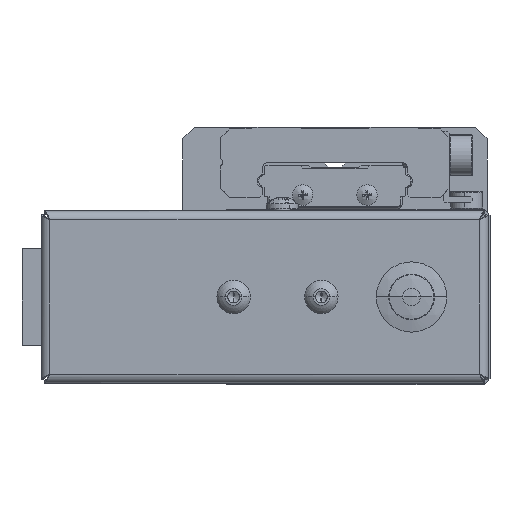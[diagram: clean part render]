
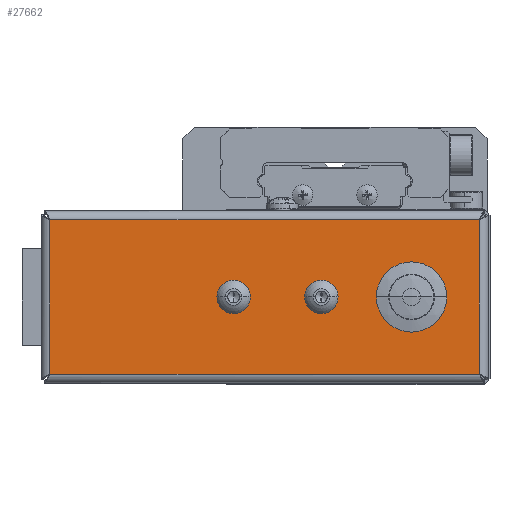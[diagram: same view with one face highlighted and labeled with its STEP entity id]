
A CAD part, left-side view. The second image highlights one B-rep face of the part: STEP entity #27662.
In plain terms, the highlighted planar face has unit normal (-1, 0, 0) as drawn and (0, 0, -1) by its records, which use the part's own axes.
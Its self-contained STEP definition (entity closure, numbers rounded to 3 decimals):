
#16 = EDGE_LOOP ( 'NONE', ( #35210, #17534, #27285, #9019 ) ) ;
#160 = CARTESIAN_POINT ( 'NONE',  ( 1.5, 0.571, -0.5 ) ) ;
#327 = EDGE_CURVE ( 'NONE', #11824, #25733, #27491, .T. ) ;
#944 = DIRECTION ( 'NONE',  ( -1., 0., 0. ) ) ;
#1338 = VECTOR ( 'NONE', #14428, 1000. ) ;
#1768 = CARTESIAN_POINT ( 'NONE',  ( 67.1, 14.7, -0.5 ) ) ;
#2064 = EDGE_CURVE ( 'NONE', #2959, #5705, #27173, .T. ) ;
#2805 = CARTESIAN_POINT ( 'NONE',  ( 59.5, 14.7, -0.5 ) ) ;
#2959 = VERTEX_POINT ( 'NONE', #2805 ) ;
#3415 = ORIENTED_EDGE ( 'NONE', *, *, #2064, .F. ) ;
#4232 = LINE ( 'NONE', #21245, #24502 ) ;
#5705 = VERTEX_POINT ( 'NONE', #1768 ) ;
#6226 = CARTESIAN_POINT ( 'NONE',  ( 63.3, 14.7, -0.5 ) ) ;
#6305 = PLANE ( 'NONE',  #33307 ) ;
#6701 = CARTESIAN_POINT ( 'NONE',  ( 74.9, 1.5, -0.5 ) ) ;
#8312 = CIRCLE ( 'NONE', #12024, 3.8 ) ;
#9019 = ORIENTED_EDGE ( 'NONE', *, *, #37873, .T. ) ;
#9071 = LINE ( 'NONE', #17307, #20139 ) ;
#9186 = DIRECTION ( 'NONE',  ( -1., 0., 0. ) ) ;
#10082 = CARTESIAN_POINT ( 'NONE',  ( 74.9, 27.9, -0.5 ) ) ;
#11382 = DIRECTION ( 'NONE',  ( 1., 0., 0. ) ) ;
#11777 = EDGE_CURVE ( 'NONE', #29416, #11824, #4232, .T. ) ;
#11824 = VERTEX_POINT ( 'NONE', #6701 ) ;
#12024 = AXIS2_PLACEMENT_3D ( 'NONE', #6226, #35592, #9186 ) ;
#13915 = CARTESIAN_POINT ( 'NONE',  ( 1.5, 1.5, -0.5 ) ) ;
#14107 = EDGE_CURVE ( 'NONE', #5705, #2959, #8312, .T. ) ;
#14428 = DIRECTION ( 'NONE',  ( -1., 0., 0. ) ) ;
#14548 = EDGE_CURVE ( 'NONE', #25733, #25703, #18429, .T. ) ;
#17307 = CARTESIAN_POINT ( 'NONE',  ( 0.571, 27.9, -0.5 ) ) ;
#17534 = ORIENTED_EDGE ( 'NONE', *, *, #327, .T. ) ;
#18429 = LINE ( 'NONE', #160, #37105 ) ;
#19801 = FACE_BOUND ( 'NONE', #25469, .T. ) ;
#20139 = VECTOR ( 'NONE', #11382, 1000. ) ;
#21245 = CARTESIAN_POINT ( 'NONE',  ( 74.9, 28.829, -0.5 ) ) ;
#22167 = CARTESIAN_POINT ( 'NONE',  ( 1.5, 27.9, -0.5 ) ) ;
#23322 = AXIS2_PLACEMENT_3D ( 'NONE', #29663, #36063, #944 ) ;
#24502 = VECTOR ( 'NONE', #26977, 1000. ) ;
#25469 = EDGE_LOOP ( 'NONE', ( #3415, #30367 ) ) ;
#25703 = VERTEX_POINT ( 'NONE', #22167 ) ;
#25733 = VERTEX_POINT ( 'NONE', #13915 ) ;
#26464 = DIRECTION ( 'NONE',  ( 0., 0., -1. ) ) ;
#26572 = DIRECTION ( 'NONE',  ( 0., 1., 0. ) ) ;
#26706 = DIRECTION ( 'NONE',  ( -1., 0., 0. ) ) ;
#26977 = DIRECTION ( 'NONE',  ( 0., -1., 0. ) ) ;
#27173 = CIRCLE ( 'NONE', #23322, 3.8 ) ;
#27285 = ORIENTED_EDGE ( 'NONE', *, *, #14548, .T. ) ;
#27491 = LINE ( 'NONE', #34788, #1338 ) ;
#27662 = ADVANCED_FACE ( 'NONE', ( #19801, #31222 ), #6305, .T. ) ;
#29416 = VERTEX_POINT ( 'NONE', #10082 ) ;
#29663 = CARTESIAN_POINT ( 'NONE',  ( 63.3, 14.7, -0.5 ) ) ;
#29776 = CARTESIAN_POINT ( 'NONE',  ( 0., 0., -0.5 ) ) ;
#30367 = ORIENTED_EDGE ( 'NONE', *, *, #14107, .F. ) ;
#31222 = FACE_OUTER_BOUND ( 'NONE', #16, .T. ) ;
#33307 = AXIS2_PLACEMENT_3D ( 'NONE', #29776, #26464, #26706 ) ;
#34788 = CARTESIAN_POINT ( 'NONE',  ( 75.829, 1.5, -0.5 ) ) ;
#35210 = ORIENTED_EDGE ( 'NONE', *, *, #11777, .T. ) ;
#35592 = DIRECTION ( 'NONE',  ( 0., 0., -1. ) ) ;
#36063 = DIRECTION ( 'NONE',  ( 0., 0., -1. ) ) ;
#37105 = VECTOR ( 'NONE', #26572, 1000. ) ;
#37873 = EDGE_CURVE ( 'NONE', #25703, #29416, #9071, .T. ) ;
